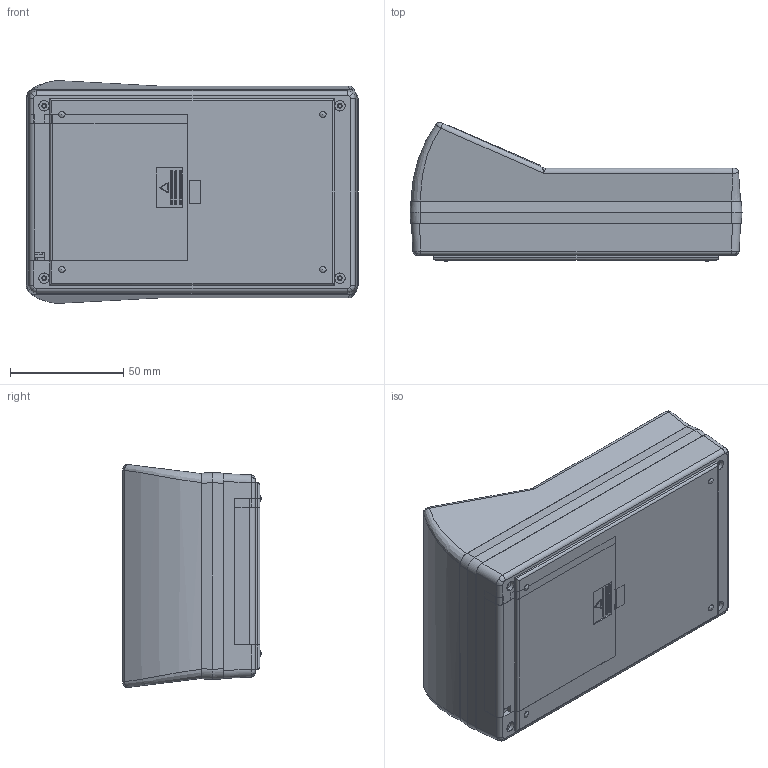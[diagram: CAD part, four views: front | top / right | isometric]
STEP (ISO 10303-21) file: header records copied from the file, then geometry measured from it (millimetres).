
FILE_DESCRIPTION (( 'STEP AP214' ), '1' );
FILE_NAME ('90-52-4A-E-R.STEP', '2020-10-15T16:10:32', ( 'Rudy' ), ( '' ), 'SwSTEP 2.0', 'SolidWorks 2014', '' );
FILE_SCHEMA (( 'AUTOMOTIVE_DESIGN' ));
Length unit declared in the file: millimetre
Products named in the file (7): 90 PCB 29V-4AA; 90 Angle LCD expander; 4AAdoor; 90-bessel; Top Angled LCD; 90-4AA Shallow; 90-52-4A-E-R
Assembly tree (6 placements, depth 2):
  90-52-4A-E-R
    90-4AA Shallow
    Top Angled LCD
    90-bessel
    4AAdoor
    90 Angle LCD expander
    90 PCB 29V-4AA
Bounding box: 146.8 x 61.32 x 98.54 mm (x, y, z)
Volume: 152787.9 mm3; surface area: 136200.7 mm2
Topology: 6 solids, 6 shells, 876 faces, 2362 edges, 1532 vertices
Faces by surface type: plane 585, cylinder 185, cone 52, torus 24, bspline 20, sphere 10
Entity records: 28501 total; most frequent: CARTESIAN_POINT 6240, ORIENTED_EDGE 4684, DIRECTION 4394, EDGE_CURVE 2342, VECTOR 1746, LINE 1746, VERTEX_POINT 1524, AXIS2_PLACEMENT_3D 1324
